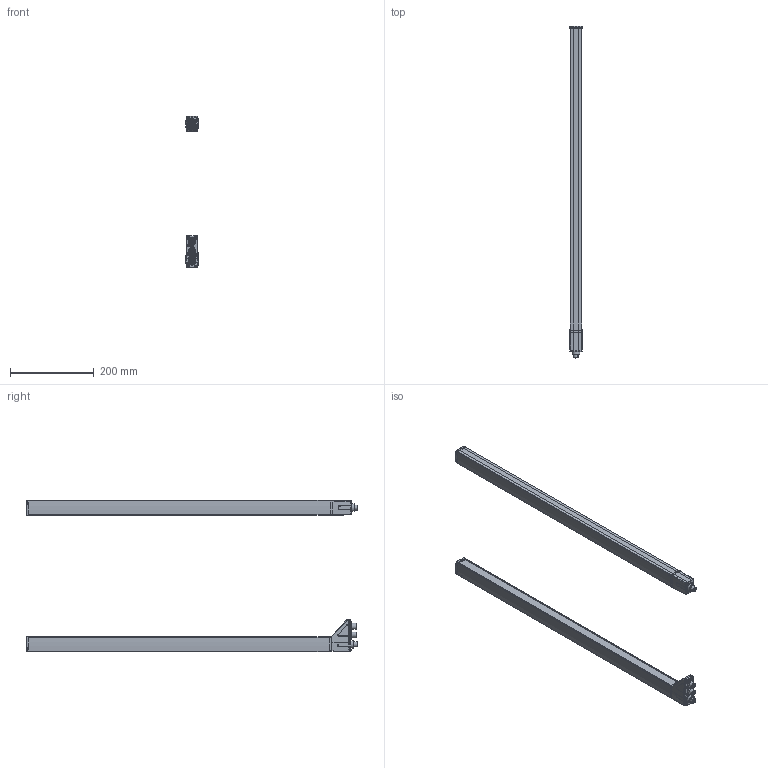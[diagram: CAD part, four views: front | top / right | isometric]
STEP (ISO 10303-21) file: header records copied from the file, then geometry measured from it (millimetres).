
FILE_DESCRIPTION(/* description */ (''),/* implementation_level */ '2;1');
FILE_NAME(/* name */ '3DCAD_CML700i_PN_720.stp',/* time_stamp */ '2017-09-19T15:09:51+02:00',/* author */ ('CC2'),/* organization */ ('Leuze electronic'),/* preprocessor_version */ 'ST-DEVELOPER v15',/* originating_system */ 'SIEMENS PLM Software NX 8.5',/* authorisation */ '');
FILE_SCHEMA (('AUTOMOTIVE_DESIGN { 1 0 10303 214 3 1 1 1 }'));
Length unit declared in the file: millimetre
Products named in the file (8): 002502_00.0; 002491_00.0; 009185_00.0; 002486_00.0; 005341_00.0; 005339_00.0; 009183_00.0_MODEL; 19-102660_00.0
Assembly tree (8 placements, depth 3):
  19-102660_00.0
    009183_00.0_MODEL
      005341_00.0
      002486_00.0
      009185_00.0
    005339_00.0
      005341_00.0
      002491_00.0
      002502_00.0
Bounding box: 28.99 x 792.8 x 361.11 mm (x, y, z)
Volume: 1389734.3 mm3; surface area: 262532.2 mm2
Topology: 7 solids, 7 shells, 2495 faces, 6548 edges, 4164 vertices
Faces by surface type: plane 973, cylinder 625, bspline 419, cone 176, extrusion 133, torus 120, sphere 29, revolution 20
Full cylindrical faces by diameter (mm): 0.4 x1, 0.75 x1, 0.85 x1, 1 x18, 2 x2, 2.6 x26, 3.2 x2, 3.5 x4, 4 x2, 6.7 x4, 7 x6, 8.6 x2, 9.3 x2, 10.8 x1, 11 x2, 12 x2, 18 x2
Entity records: 108410 total; most frequent: CARTESIAN_POINT 51571, ORIENTED_EDGE 12056, DIRECTION 10184, EDGE_CURVE 6028, VERTEX_POINT 3928, AXIS2_PLACEMENT_3D 3657, VECTOR 2850, EDGE_LOOP 2752
